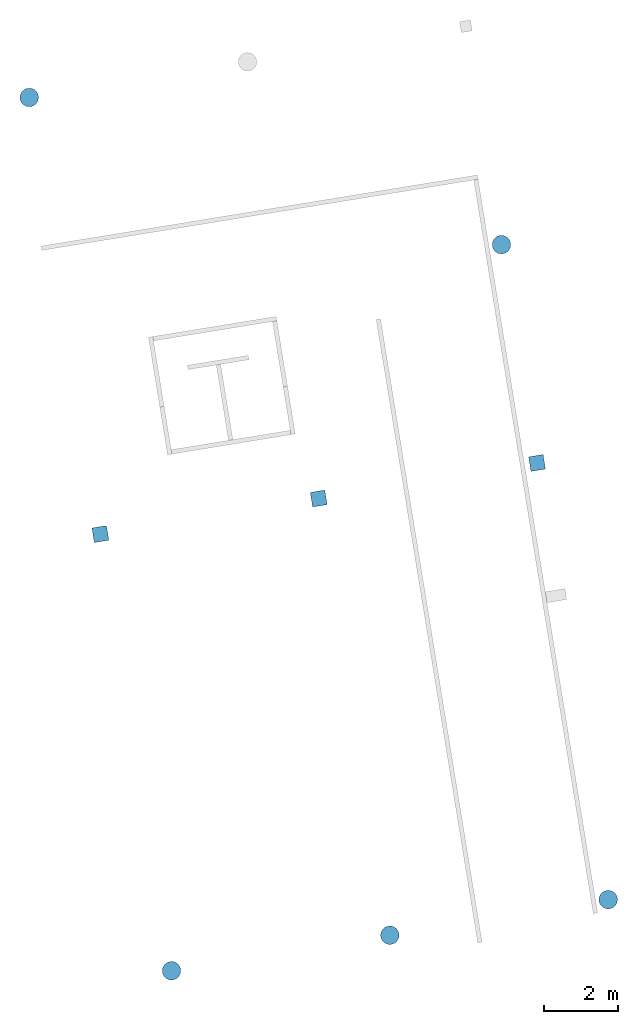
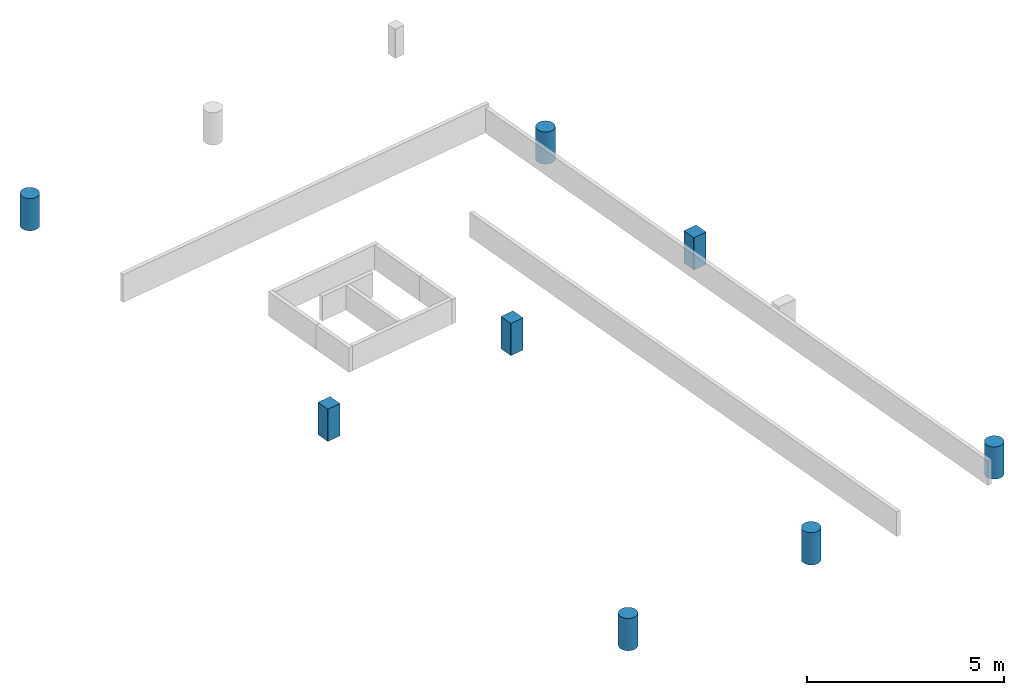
# One storey, part 1 of 2: 8 columns.
"""IFC2X3 building model written with IfcOpenShell, lengths in millimetres."""

from ifc_helpers import new_model, entity, si_unit, converted_unit, derived_unit, direction, frame, origin, origin_with_axes, place, context, subcontext, project, spatial, faceted_brep, material, type_object, element, save


model = new_model("IFC2X3")

# Units and contexts
model_context = context("Model", 3, precision=0.01, world=origin(), true_north=direction((6.12323399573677e-17, 1.0)))
plan_context = context("Plan", 3, precision=1e-05, world=origin_with_axes())
body_context = subcontext(model_context, "Body", "Model", "MODEL_VIEW")
ifc_project = project(units=[converted_unit("PLANEANGLEUNIT", "DEGREE", entity("IfcPositiveLengthMeasure", 0.0174532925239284), si_unit("PLANEANGLEUNIT", "RADIAN"), dimensions=[0, 0, 0, 0, 0, 0, 0]), si_unit("AREAUNIT", "SQUARE_METRE"), si_unit("LENGTHUNIT", "METRE", prefix="MILLI"), si_unit("MASSUNIT", "GRAM", prefix="KILO"), si_unit("POWERUNIT", "WATT"), si_unit("PRESSUREUNIT", "PASCAL", prefix="KILO"), si_unit("FORCEUNIT", "NEWTON", prefix="KILO"), si_unit("ELECTRICVOLTAGEUNIT", "VOLT"), si_unit("ELECTRICCURRENTUNIT", "AMPERE"), si_unit("THERMODYNAMICTEMPERATUREUNIT", "DEGREE_CELSIUS"), si_unit("TIMEUNIT", "SECOND"), si_unit("VOLUMEUNIT", "CUBIC_METRE"), derived_unit("LINEARVELOCITYUNIT", [(si_unit("LENGTHUNIT", "METRE"), 1), (si_unit("TIMEUNIT", "SECOND"), -1)]), derived_unit("VOLUMETRICFLOWRATEUNIT", [(si_unit("VOLUMEUNIT", "CUBIC_METRE"), 1), (si_unit("TIMEUNIT", "SECOND"), -1)]), derived_unit("THERMALTRANSMITTANCEUNIT", [(si_unit("POWERUNIT", "WATT"), 1), (si_unit("THERMODYNAMICTEMPERATUREUNIT", "KELVIN"), -1), (si_unit("AREAUNIT", "SQUARE_METRE"), -1)]), derived_unit("SOUNDPRESSUREUNIT", [(si_unit("PRESSUREUNIT", "PASCAL"), 1)])], contexts=[model_context, plan_context])

# Site, building, storey
site_placement = place(None, frame((-305029.896016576, -232111.759730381, 0.0), z_axis=(0.0, 0.0, 1.0), x_axis=(-0.160806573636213, 0.986985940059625, 0.0)))
site = spatial("IfcSite", under=ifc_project, at=site_placement, Name="Default", CompositionType="ELEMENT")
building_placement = place(site_placement, frame((0.0, 0.0, 0.0), z_axis=(0.0, 0.0, 1.0), x_axis=(1.0, -2.77555756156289e-17, 0.0)))
building = spatial("IfcBuilding", under=site, at=building_placement, Name="br001-a-200-1-0001", CompositionType="ELEMENT")
storey_placement = place(building_placement, frame((0.0, 0.0, 51360.0000000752), z_axis=(0.0, 0.0, 1.0), x_axis=(1.0, -2.77555756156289e-17, 0.0)))
storey = spatial("IfcBuildingStorey", under=building, at=storey_placement, Name="H01-Nivå D+0,36", CompositionType="ELEMENT", Elevation=51360.0000000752)

# Columns
ifc_material = material(Name="_NSW Betong")
column_type_1 = type_object("IfcColumnType", Name="NSW Søyle - Betong rund:ø500 mm", PredefinedType="COLUMN", material=ifc_material)
column_1_placement = place(storey_placement, frame((1196678.59858442, -722766.378367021, -51360.0000000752), z_axis=(0.0, 0.0, 1.0), x_axis=(1.0, -2.77555756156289e-17, 0.0)))
element("IfcColumn", 1, at=column_1_placement, inside=storey, type_object=column_type_1, Name="NSW Søyle - Betong rund:ø500 mm", ObjectType="NSW Søyle - Betong rund:ø500 mm", context=body_context, shape_type="Brep", body=[
    faceted_brep([(249.999999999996, -3.94377568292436e-13, 54500.0), (246.201938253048, -43.4120444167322, 54500.0), (246.201938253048, -43.4120444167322, 55500.0), (249.999999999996, -3.94377568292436e-13, 55500.0), (246.201938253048, 43.4120444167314, 54500.0), (246.201938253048, 43.4120444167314, 55500.0), (234.923155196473, 85.5050358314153, 54500.0), (234.923155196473, 85.5050358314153, 55500.0), (216.506350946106, 124.999999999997, 54500.0), (216.506350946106, 124.999999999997, 55500.0), (191.511110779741, 160.696902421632, 54500.0), (191.511110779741, 160.696902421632, 55500.0), (160.696902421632, 191.511110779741, 54500.0), (160.696902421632, 191.511110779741, 55500.0), (124.999999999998, 216.506350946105, 54500.0), (124.999999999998, 216.506350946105, 55500.0), (85.5050358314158, 234.923155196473, 54500.0), (85.5050358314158, 234.923155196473, 55500.0), (43.4120444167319, 246.201938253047, 54500.0), (43.4120444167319, 246.201938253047, 55500.0), (6.17269247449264e-14, 249.999999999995, 54500.0), (6.17269247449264e-14, 249.999999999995, 55500.0), (-43.4120444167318, 246.201938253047, 54500.0), (-43.4120444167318, 246.201938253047, 55500.0), (-85.5050358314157, 234.923155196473, 54500.0), (-85.5050358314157, 234.923155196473, 55500.0), (-124.999999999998, 216.506350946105, 54500.0), (-124.999999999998, 216.506350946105, 55500.0), (-160.696902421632, 191.511110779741, 54500.0), (-160.696902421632, 191.511110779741, 55500.0), (-191.511110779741, 160.696902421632, 54500.0), (-191.511110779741, 160.696902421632, 55500.0), (-216.506350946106, 124.999999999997, 54500.0), (-216.506350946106, 124.999999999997, 55500.0), (-234.923155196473, 85.5050358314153, 54500.0), (-234.923155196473, 85.5050358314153, 55500.0), (-246.201938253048, 43.4120444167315, 54500.0), (-246.201938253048, 43.4120444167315, 55500.0), (-249.999999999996, -3.63761398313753e-13, 54500.0), (-249.999999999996, -3.63761398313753e-13, 55500.0), (-246.201938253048, -43.4120444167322, 54500.0), (-246.201938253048, -43.4120444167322, 55500.0), (-234.923155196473, -85.5050358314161, 54500.0), (-234.923155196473, -85.5050358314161, 55500.0), (-216.506350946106, -124.999999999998, 54500.0), (-216.506350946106, -124.999999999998, 55500.0), (-191.511110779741, -160.696902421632, 54500.0), (-191.511110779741, -160.696902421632, 55500.0), (-160.696902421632, -191.511110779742, 54500.0), (-160.696902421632, -191.511110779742, 55500.0), (-124.999999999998, -216.506350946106, 54500.0), (-124.999999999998, -216.506350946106, 55500.0), (-85.5050358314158, -234.923155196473, 54500.0), (-85.5050358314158, -234.923155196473, 55500.0), (-43.4120444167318, -246.201938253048, 54500.0), (-43.4120444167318, -246.201938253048, 55500.0), (4.94584787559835e-16, -249.999999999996, 54500.0), (4.94584787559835e-16, -249.999999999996, 55500.0), (43.4120444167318, -246.201938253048, 54500.0), (43.4120444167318, -246.201938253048, 55500.0), (85.5050358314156, -234.923155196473, 54500.0), (85.5050358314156, -234.923155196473, 55500.0), (124.999999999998, -216.506350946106, 54500.0), (124.999999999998, -216.506350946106, 55500.0), (160.696902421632, -191.511110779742, 54500.0), (160.696902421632, -191.511110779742, 55500.0), (191.511110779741, -160.696902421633, 54500.0), (191.511110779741, -160.696902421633, 55500.0), (216.506350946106, -124.999999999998, 54500.0), (216.506350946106, -124.999999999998, 55500.0), (234.923155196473, -85.5050358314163, 54500.0), (234.923155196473, -85.5050358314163, 55500.0)], [[[0, 1, 2, 3]], [[4, 0, 3, 5]], [[6, 4, 5, 7]], [[8, 6, 7, 9]], [[10, 8, 9, 11]], [[12, 10, 11, 13]], [[14, 12, 13, 15]], [[16, 14, 15, 17]], [[18, 16, 17, 19]], [[20, 18, 19, 21]], [[22, 20, 21, 23]], [[24, 22, 23, 25]], [[26, 24, 25, 27]], [[28, 26, 27, 29]], [[30, 28, 29, 31]], [[32, 30, 31, 33]], [[34, 32, 33, 35]], [[36, 34, 35, 37]], [[38, 36, 37, 39]], [[40, 38, 39, 41]], [[42, 40, 41, 43]], [[44, 42, 43, 45]], [[46, 44, 45, 47]], [[48, 46, 47, 49]], [[50, 48, 49, 51]], [[52, 50, 51, 53]], [[54, 52, 53, 55]], [[56, 54, 55, 57]], [[58, 56, 57, 59]], [[60, 58, 59, 61]], [[62, 60, 61, 63]], [[64, 62, 63, 65]], [[66, 64, 65, 67]], [[68, 66, 67, 69]], [[70, 68, 69, 71]], [[1, 70, 71, 2]], [[3, 2, 71, 69, 67, 65, 63, 61, 59, 57, 55, 53, 51, 49, 47, 45, 43, 41, 39, 37, 35, 33, 31, 29, 27, 25, 23, 21, 19, 17, 15, 13, 11, 9, 7, 5]], [[4, 6, 8, 10, 12, 14, 16, 18, 20, 22, 24, 26, 28, 30, 32, 34, 36, 38, 40, 42, 44, 46, 48, 50, 52, 54, 56, 58, 60, 62, 64, 66, 68, 70, 1, 0]]], orient=[[False], [False], [False], [False], [False], [False], [False], [False], [False], [False], [False], [False], [False], [False], [False], [False], [False], [False], [False], [False], [False], [False], [False], [False], [False], [False], [False], [False], [False], [False], [False], [False], [False], [False], [False], [False], [False], [False]]),
])
column_2_placement = place(storey_placement, frame((1190678.59858442, -734766.378367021, -51360.0000000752), z_axis=(0.0, 0.0, 1.0), x_axis=(1.0, -2.77555756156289e-17, 0.0)))
element("IfcColumn", 2, at=column_2_placement, inside=storey, type_object=column_type_1, Name="NSW Søyle - Betong rund:ø500 mm", ObjectType="NSW Søyle - Betong rund:ø500 mm", context=body_context, shape_type="Brep", body=[
    faceted_brep([(249.999999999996, -3.94377568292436e-13, 54500.0), (246.201938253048, -43.4120444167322, 54500.0), (246.201938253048, -43.4120444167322, 55500.0), (249.999999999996, -3.94377568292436e-13, 55500.0), (246.201938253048, 43.4120444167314, 54500.0), (246.201938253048, 43.4120444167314, 55500.0), (234.923155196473, 85.5050358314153, 54500.0), (234.923155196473, 85.5050358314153, 55500.0), (216.506350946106, 124.999999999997, 54500.0), (216.506350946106, 124.999999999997, 55500.0), (191.511110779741, 160.696902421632, 54500.0), (191.511110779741, 160.696902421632, 55500.0), (160.696902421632, 191.511110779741, 54500.0), (160.696902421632, 191.511110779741, 55500.0), (124.999999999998, 216.506350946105, 54500.0), (124.999999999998, 216.506350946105, 55500.0), (85.5050358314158, 234.923155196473, 54500.0), (85.5050358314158, 234.923155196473, 55500.0), (43.4120444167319, 246.201938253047, 54500.0), (43.4120444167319, 246.201938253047, 55500.0), (6.17269247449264e-14, 249.999999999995, 54500.0), (6.17269247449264e-14, 249.999999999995, 55500.0), (-43.4120444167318, 246.201938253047, 54500.0), (-43.4120444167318, 246.201938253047, 55500.0), (-85.5050358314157, 234.923155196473, 54500.0), (-85.5050358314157, 234.923155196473, 55500.0), (-124.999999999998, 216.506350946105, 54500.0), (-124.999999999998, 216.506350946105, 55500.0), (-160.696902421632, 191.511110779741, 54500.0), (-160.696902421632, 191.511110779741, 55500.0), (-191.511110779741, 160.696902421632, 54500.0), (-191.511110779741, 160.696902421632, 55500.0), (-216.506350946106, 124.999999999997, 54500.0), (-216.506350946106, 124.999999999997, 55500.0), (-234.923155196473, 85.5050358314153, 54500.0), (-234.923155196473, 85.5050358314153, 55500.0), (-246.201938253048, 43.4120444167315, 54500.0), (-246.201938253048, 43.4120444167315, 55500.0), (-249.999999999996, -3.63761398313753e-13, 54500.0), (-249.999999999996, -3.63761398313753e-13, 55500.0), (-246.201938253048, -43.4120444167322, 54500.0), (-246.201938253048, -43.4120444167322, 55500.0), (-234.923155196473, -85.5050358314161, 54500.0), (-234.923155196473, -85.5050358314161, 55500.0), (-216.506350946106, -124.999999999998, 54500.0), (-216.506350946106, -124.999999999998, 55500.0), (-191.511110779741, -160.696902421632, 54500.0), (-191.511110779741, -160.696902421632, 55500.0), (-160.696902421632, -191.511110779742, 54500.0), (-160.696902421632, -191.511110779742, 55500.0), (-124.999999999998, -216.506350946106, 54500.0), (-124.999999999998, -216.506350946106, 55500.0), (-85.5050358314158, -234.923155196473, 54500.0), (-85.5050358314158, -234.923155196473, 55500.0), (-43.4120444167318, -246.201938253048, 54500.0), (-43.4120444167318, -246.201938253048, 55500.0), (4.94584787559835e-16, -249.999999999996, 54500.0), (4.94584787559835e-16, -249.999999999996, 55500.0), (43.4120444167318, -246.201938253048, 54500.0), (43.4120444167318, -246.201938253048, 55500.0), (85.5050358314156, -234.923155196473, 54500.0), (85.5050358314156, -234.923155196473, 55500.0), (124.999999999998, -216.506350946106, 54500.0), (124.999999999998, -216.506350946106, 55500.0), (160.696902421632, -191.511110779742, 54500.0), (160.696902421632, -191.511110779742, 55500.0), (191.511110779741, -160.696902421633, 54500.0), (191.511110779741, -160.696902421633, 55500.0), (216.506350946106, -124.999999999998, 54500.0), (216.506350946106, -124.999999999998, 55500.0), (234.923155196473, -85.5050358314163, 54500.0), (234.923155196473, -85.5050358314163, 55500.0)], [[[0, 1, 2, 3]], [[4, 0, 3, 5]], [[6, 4, 5, 7]], [[8, 6, 7, 9]], [[10, 8, 9, 11]], [[12, 10, 11, 13]], [[14, 12, 13, 15]], [[16, 14, 15, 17]], [[18, 16, 17, 19]], [[20, 18, 19, 21]], [[22, 20, 21, 23]], [[24, 22, 23, 25]], [[26, 24, 25, 27]], [[28, 26, 27, 29]], [[30, 28, 29, 31]], [[32, 30, 31, 33]], [[34, 32, 33, 35]], [[36, 34, 35, 37]], [[38, 36, 37, 39]], [[40, 38, 39, 41]], [[42, 40, 41, 43]], [[44, 42, 43, 45]], [[46, 44, 45, 47]], [[48, 46, 47, 49]], [[50, 48, 49, 51]], [[52, 50, 51, 53]], [[54, 52, 53, 55]], [[56, 54, 55, 57]], [[58, 56, 57, 59]], [[60, 58, 59, 61]], [[62, 60, 61, 63]], [[64, 62, 63, 65]], [[66, 64, 65, 67]], [[68, 66, 67, 69]], [[70, 68, 69, 71]], [[1, 70, 71, 2]], [[3, 2, 71, 69, 67, 65, 63, 61, 59, 57, 55, 53, 51, 49, 47, 45, 43, 41, 39, 37, 35, 33, 31, 29, 27, 25, 23, 21, 19, 17, 15, 13, 11, 9, 7, 5]], [[4, 6, 8, 10, 12, 14, 16, 18, 20, 22, 24, 26, 28, 30, 32, 34, 36, 38, 40, 42, 44, 46, 48, 50, 52, 54, 56, 58, 60, 62, 64, 66, 68, 70, 1, 0]]], orient=[[False], [False], [False], [False], [False], [False], [False], [False], [False], [False], [False], [False], [False], [False], [False], [False], [False], [False], [False], [False], [False], [False], [False], [False], [False], [False], [False], [False], [False], [False], [False], [False], [False], [False], [False], [False], [False], [False]]),
])
column_3_placement = place(storey_placement, frame((1172678.59858442, -722766.378367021, -51360.0000000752), z_axis=(0.0, 0.0, 1.0), x_axis=(1.0, -2.77555756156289e-17, 0.0)))
element("IfcColumn", 3, at=column_3_placement, inside=storey, type_object=column_type_1, Name="NSW Søyle - Betong rund:ø500 mm", ObjectType="NSW Søyle - Betong rund:ø500 mm", context=body_context, shape_type="Brep", body=[
    faceted_brep([(249.999999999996, -3.94377568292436e-13, 54500.0), (246.201938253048, -43.4120444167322, 54500.0), (246.201938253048, -43.4120444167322, 55500.0), (249.999999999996, -3.94377568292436e-13, 55500.0), (246.201938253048, 43.4120444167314, 54500.0), (246.201938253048, 43.4120444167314, 55500.0), (234.923155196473, 85.5050358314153, 54500.0), (234.923155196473, 85.5050358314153, 55500.0), (216.506350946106, 124.999999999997, 54500.0), (216.506350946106, 124.999999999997, 55500.0), (191.511110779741, 160.696902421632, 54500.0), (191.511110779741, 160.696902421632, 55500.0), (160.696902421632, 191.511110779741, 54500.0), (160.696902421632, 191.511110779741, 55500.0), (124.999999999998, 216.506350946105, 54500.0), (124.999999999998, 216.506350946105, 55500.0), (85.5050358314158, 234.923155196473, 54500.0), (85.5050358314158, 234.923155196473, 55500.0), (43.4120444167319, 246.201938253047, 54500.0), (43.4120444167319, 246.201938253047, 55500.0), (6.17269247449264e-14, 249.999999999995, 54500.0), (6.17269247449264e-14, 249.999999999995, 55500.0), (-43.4120444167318, 246.201938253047, 54500.0), (-43.4120444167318, 246.201938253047, 55500.0), (-85.5050358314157, 234.923155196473, 54500.0), (-85.5050358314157, 234.923155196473, 55500.0), (-124.999999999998, 216.506350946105, 54500.0), (-124.999999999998, 216.506350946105, 55500.0), (-160.696902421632, 191.511110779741, 54500.0), (-160.696902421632, 191.511110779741, 55500.0), (-191.511110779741, 160.696902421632, 54500.0), (-191.511110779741, 160.696902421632, 55500.0), (-216.506350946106, 124.999999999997, 54500.0), (-216.506350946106, 124.999999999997, 55500.0), (-234.923155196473, 85.5050358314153, 54500.0), (-234.923155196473, 85.5050358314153, 55500.0), (-246.201938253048, 43.4120444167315, 54500.0), (-246.201938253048, 43.4120444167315, 55500.0), (-249.999999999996, -3.63761398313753e-13, 54500.0), (-249.999999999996, -3.63761398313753e-13, 55500.0), (-246.201938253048, -43.4120444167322, 54500.0), (-246.201938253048, -43.4120444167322, 55500.0), (-234.923155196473, -85.5050358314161, 54500.0), (-234.923155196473, -85.5050358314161, 55500.0), (-216.506350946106, -124.999999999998, 54500.0), (-216.506350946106, -124.999999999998, 55500.0), (-191.511110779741, -160.696902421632, 54500.0), (-191.511110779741, -160.696902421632, 55500.0), (-160.696902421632, -191.511110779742, 54500.0), (-160.696902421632, -191.511110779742, 55500.0), (-124.999999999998, -216.506350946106, 54500.0), (-124.999999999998, -216.506350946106, 55500.0), (-85.5050358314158, -234.923155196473, 54500.0), (-85.5050358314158, -234.923155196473, 55500.0), (-43.4120444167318, -246.201938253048, 54500.0), (-43.4120444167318, -246.201938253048, 55500.0), (4.94584787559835e-16, -249.999999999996, 54500.0), (4.94584787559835e-16, -249.999999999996, 55500.0), (43.4120444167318, -246.201938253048, 54500.0), (43.4120444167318, -246.201938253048, 55500.0), (85.5050358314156, -234.923155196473, 54500.0), (85.5050358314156, -234.923155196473, 55500.0), (124.999999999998, -216.506350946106, 54500.0), (124.999999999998, -216.506350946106, 55500.0), (160.696902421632, -191.511110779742, 54500.0), (160.696902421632, -191.511110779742, 55500.0), (191.511110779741, -160.696902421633, 54500.0), (191.511110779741, -160.696902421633, 55500.0), (216.506350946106, -124.999999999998, 54500.0), (216.506350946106, -124.999999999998, 55500.0), (234.923155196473, -85.5050358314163, 54500.0), (234.923155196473, -85.5050358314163, 55500.0)], [[[0, 1, 2, 3]], [[4, 0, 3, 5]], [[6, 4, 5, 7]], [[8, 6, 7, 9]], [[10, 8, 9, 11]], [[12, 10, 11, 13]], [[14, 12, 13, 15]], [[16, 14, 15, 17]], [[18, 16, 17, 19]], [[20, 18, 19, 21]], [[22, 20, 21, 23]], [[24, 22, 23, 25]], [[26, 24, 25, 27]], [[28, 26, 27, 29]], [[30, 28, 29, 31]], [[32, 30, 31, 33]], [[34, 32, 33, 35]], [[36, 34, 35, 37]], [[38, 36, 37, 39]], [[40, 38, 39, 41]], [[42, 40, 41, 43]], [[44, 42, 43, 45]], [[46, 44, 45, 47]], [[48, 46, 47, 49]], [[50, 48, 49, 51]], [[52, 50, 51, 53]], [[54, 52, 53, 55]], [[56, 54, 55, 57]], [[58, 56, 57, 59]], [[60, 58, 59, 61]], [[62, 60, 61, 63]], [[64, 62, 63, 65]], [[66, 64, 65, 67]], [[68, 66, 67, 69]], [[70, 68, 69, 71]], [[1, 70, 71, 2]], [[3, 2, 71, 69, 67, 65, 63, 61, 59, 57, 55, 53, 51, 49, 47, 45, 43, 41, 39, 37, 35, 33, 31, 29, 27, 25, 23, 21, 19, 17, 15, 13, 11, 9, 7, 5]], [[4, 6, 8, 10, 12, 14, 16, 18, 20, 22, 24, 26, 28, 30, 32, 34, 36, 38, 40, 42, 44, 46, 48, 50, 52, 54, 56, 58, 60, 62, 64, 66, 68, 70, 1, 0]]], orient=[[False], [False], [False], [False], [False], [False], [False], [False], [False], [False], [False], [False], [False], [False], [False], [False], [False], [False], [False], [False], [False], [False], [False], [False], [False], [False], [False], [False], [False], [False], [False], [False], [False], [False], [False], [False], [False], [False]]),
])
column_4_placement = place(storey_placement, frame((1172678.59858442, -728766.37836702, -51360.0000000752), z_axis=(0.0, 0.0, 1.0), x_axis=(1.0, -2.77555756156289e-17, 0.0)))
element("IfcColumn", 4, at=column_4_placement, inside=storey, type_object=column_type_1, Name="NSW Søyle - Betong rund:ø500 mm", ObjectType="NSW Søyle - Betong rund:ø500 mm", context=body_context, shape_type="Brep", body=[
    faceted_brep([(249.999999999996, -3.94377568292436e-13, 54500.0), (246.201938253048, -43.4120444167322, 54500.0), (246.201938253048, -43.4120444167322, 55500.0), (249.999999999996, -3.94377568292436e-13, 55500.0), (246.201938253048, 43.4120444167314, 54500.0), (246.201938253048, 43.4120444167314, 55500.0), (234.923155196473, 85.5050358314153, 54500.0), (234.923155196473, 85.5050358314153, 55500.0), (216.506350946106, 124.999999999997, 54500.0), (216.506350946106, 124.999999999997, 55500.0), (191.511110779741, 160.696902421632, 54500.0), (191.511110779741, 160.696902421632, 55500.0), (160.696902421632, 191.511110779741, 54500.0), (160.696902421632, 191.511110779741, 55500.0), (124.999999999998, 216.506350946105, 54500.0), (124.999999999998, 216.506350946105, 55500.0), (85.5050358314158, 234.923155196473, 54500.0), (85.5050358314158, 234.923155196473, 55500.0), (43.4120444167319, 246.201938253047, 54500.0), (43.4120444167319, 246.201938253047, 55500.0), (6.17269247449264e-14, 249.999999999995, 54500.0), (6.17269247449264e-14, 249.999999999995, 55500.0), (-43.4120444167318, 246.201938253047, 54500.0), (-43.4120444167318, 246.201938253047, 55500.0), (-85.5050358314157, 234.923155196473, 54500.0), (-85.5050358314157, 234.923155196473, 55500.0), (-124.999999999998, 216.506350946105, 54500.0), (-124.999999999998, 216.506350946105, 55500.0), (-160.696902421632, 191.511110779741, 54500.0), (-160.696902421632, 191.511110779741, 55500.0), (-191.511110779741, 160.696902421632, 54500.0), (-191.511110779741, 160.696902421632, 55500.0), (-216.506350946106, 124.999999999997, 54500.0), (-216.506350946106, 124.999999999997, 55500.0), (-234.923155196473, 85.5050358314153, 54500.0), (-234.923155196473, 85.5050358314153, 55500.0), (-246.201938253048, 43.4120444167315, 54500.0), (-246.201938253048, 43.4120444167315, 55500.0), (-249.999999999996, -3.63761398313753e-13, 54500.0), (-249.999999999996, -3.63761398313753e-13, 55500.0), (-246.201938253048, -43.4120444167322, 54500.0), (-246.201938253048, -43.4120444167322, 55500.0), (-234.923155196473, -85.5050358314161, 54500.0), (-234.923155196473, -85.5050358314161, 55500.0), (-216.506350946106, -124.999999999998, 54500.0), (-216.506350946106, -124.999999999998, 55500.0), (-191.511110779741, -160.696902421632, 54500.0), (-191.511110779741, -160.696902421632, 55500.0), (-160.696902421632, -191.511110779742, 54500.0), (-160.696902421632, -191.511110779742, 55500.0), (-124.999999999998, -216.506350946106, 54500.0), (-124.999999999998, -216.506350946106, 55500.0), (-85.5050358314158, -234.923155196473, 54500.0), (-85.5050358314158, -234.923155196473, 55500.0), (-43.4120444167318, -246.201938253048, 54500.0), (-43.4120444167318, -246.201938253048, 55500.0), (4.94584787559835e-16, -249.999999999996, 54500.0), (4.94584787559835e-16, -249.999999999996, 55500.0), (43.4120444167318, -246.201938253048, 54500.0), (43.4120444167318, -246.201938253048, 55500.0), (85.5050358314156, -234.923155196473, 54500.0), (85.5050358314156, -234.923155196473, 55500.0), (124.999999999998, -216.506350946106, 54500.0), (124.999999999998, -216.506350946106, 55500.0), (160.696902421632, -191.511110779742, 54500.0), (160.696902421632, -191.511110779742, 55500.0), (191.511110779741, -160.696902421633, 54500.0), (191.511110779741, -160.696902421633, 55500.0), (216.506350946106, -124.999999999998, 54500.0), (216.506350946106, -124.999999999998, 55500.0), (234.923155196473, -85.5050358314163, 54500.0), (234.923155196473, -85.5050358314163, 55500.0)], [[[0, 1, 2, 3]], [[4, 0, 3, 5]], [[6, 4, 5, 7]], [[8, 6, 7, 9]], [[10, 8, 9, 11]], [[12, 10, 11, 13]], [[14, 12, 13, 15]], [[16, 14, 15, 17]], [[18, 16, 17, 19]], [[20, 18, 19, 21]], [[22, 20, 21, 23]], [[24, 22, 23, 25]], [[26, 24, 25, 27]], [[28, 26, 27, 29]], [[30, 28, 29, 31]], [[32, 30, 31, 33]], [[34, 32, 33, 35]], [[36, 34, 35, 37]], [[38, 36, 37, 39]], [[40, 38, 39, 41]], [[42, 40, 41, 43]], [[44, 42, 43, 45]], [[46, 44, 45, 47]], [[48, 46, 47, 49]], [[50, 48, 49, 51]], [[52, 50, 51, 53]], [[54, 52, 53, 55]], [[56, 54, 55, 57]], [[58, 56, 57, 59]], [[60, 58, 59, 61]], [[62, 60, 61, 63]], [[64, 62, 63, 65]], [[66, 64, 65, 67]], [[68, 66, 67, 69]], [[70, 68, 69, 71]], [[1, 70, 71, 2]], [[3, 2, 71, 69, 67, 65, 63, 61, 59, 57, 55, 53, 51, 49, 47, 45, 43, 41, 39, 37, 35, 33, 31, 29, 27, 25, 23, 21, 19, 17, 15, 13, 11, 9, 7, 5]], [[4, 6, 8, 10, 12, 14, 16, 18, 20, 22, 24, 26, 28, 30, 32, 34, 36, 38, 40, 42, 44, 46, 48, 50, 52, 54, 56, 58, 60, 62, 64, 66, 68, 70, 1, 0]]], orient=[[False], [False], [False], [False], [False], [False], [False], [False], [False], [False], [False], [False], [False], [False], [False], [False], [False], [False], [False], [False], [False], [False], [False], [False], [False], [False], [False], [False], [False], [False], [False], [False], [False], [False], [False], [False], [False], [False]]),
])
column_5_placement = place(storey_placement, frame((1172678.59858442, -734766.378367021, -51360.0000000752), z_axis=(0.0, 0.0, 1.0), x_axis=(1.0, -2.77555756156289e-17, 0.0)))
element("IfcColumn", 5, at=column_5_placement, inside=storey, type_object=column_type_1, Name="NSW Søyle - Betong rund:ø500 mm", ObjectType="NSW Søyle - Betong rund:ø500 mm", context=body_context, shape_type="Brep", body=[
    faceted_brep([(249.999999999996, -3.94377568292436e-13, 54500.0), (246.201938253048, -43.4120444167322, 54500.0), (246.201938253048, -43.4120444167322, 55500.0), (249.999999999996, -3.94377568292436e-13, 55500.0), (246.201938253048, 43.4120444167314, 54500.0), (246.201938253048, 43.4120444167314, 55500.0), (234.923155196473, 85.5050358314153, 54500.0), (234.923155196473, 85.5050358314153, 55500.0), (216.506350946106, 124.999999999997, 54500.0), (216.506350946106, 124.999999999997, 55500.0), (191.511110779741, 160.696902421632, 54500.0), (191.511110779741, 160.696902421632, 55500.0), (160.696902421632, 191.511110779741, 54500.0), (160.696902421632, 191.511110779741, 55500.0), (124.999999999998, 216.506350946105, 54500.0), (124.999999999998, 216.506350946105, 55500.0), (85.5050358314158, 234.923155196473, 54500.0), (85.5050358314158, 234.923155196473, 55500.0), (43.4120444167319, 246.201938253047, 54500.0), (43.4120444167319, 246.201938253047, 55500.0), (6.17269247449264e-14, 249.999999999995, 54500.0), (6.17269247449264e-14, 249.999999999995, 55500.0), (-43.4120444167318, 246.201938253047, 54500.0), (-43.4120444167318, 246.201938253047, 55500.0), (-85.5050358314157, 234.923155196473, 54500.0), (-85.5050358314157, 234.923155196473, 55500.0), (-124.999999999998, 216.506350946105, 54500.0), (-124.999999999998, 216.506350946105, 55500.0), (-160.696902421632, 191.511110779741, 54500.0), (-160.696902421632, 191.511110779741, 55500.0), (-191.511110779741, 160.696902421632, 54500.0), (-191.511110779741, 160.696902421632, 55500.0), (-216.506350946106, 124.999999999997, 54500.0), (-216.506350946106, 124.999999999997, 55500.0), (-234.923155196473, 85.5050358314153, 54500.0), (-234.923155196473, 85.5050358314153, 55500.0), (-246.201938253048, 43.4120444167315, 54500.0), (-246.201938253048, 43.4120444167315, 55500.0), (-249.999999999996, -3.63761398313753e-13, 54500.0), (-249.999999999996, -3.63761398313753e-13, 55500.0), (-246.201938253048, -43.4120444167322, 54500.0), (-246.201938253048, -43.4120444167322, 55500.0), (-234.923155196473, -85.5050358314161, 54500.0), (-234.923155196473, -85.5050358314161, 55500.0), (-216.506350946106, -124.999999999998, 54500.0), (-216.506350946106, -124.999999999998, 55500.0), (-191.511110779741, -160.696902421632, 54500.0), (-191.511110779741, -160.696902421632, 55500.0), (-160.696902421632, -191.511110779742, 54500.0), (-160.696902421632, -191.511110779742, 55500.0), (-124.999999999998, -216.506350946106, 54500.0), (-124.999999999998, -216.506350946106, 55500.0), (-85.5050358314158, -234.923155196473, 54500.0), (-85.5050358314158, -234.923155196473, 55500.0), (-43.4120444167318, -246.201938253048, 54500.0), (-43.4120444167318, -246.201938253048, 55500.0), (4.94584787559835e-16, -249.999999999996, 54500.0), (4.94584787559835e-16, -249.999999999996, 55500.0), (43.4120444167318, -246.201938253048, 54500.0), (43.4120444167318, -246.201938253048, 55500.0), (85.5050358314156, -234.923155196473, 54500.0), (85.5050358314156, -234.923155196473, 55500.0), (124.999999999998, -216.506350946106, 54500.0), (124.999999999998, -216.506350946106, 55500.0), (160.696902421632, -191.511110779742, 54500.0), (160.696902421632, -191.511110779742, 55500.0), (191.511110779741, -160.696902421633, 54500.0), (191.511110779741, -160.696902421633, 55500.0), (216.506350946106, -124.999999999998, 54500.0), (216.506350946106, -124.999999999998, 55500.0), (234.923155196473, -85.5050358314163, 54500.0), (234.923155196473, -85.5050358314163, 55500.0)], [[[0, 1, 2, 3]], [[4, 0, 3, 5]], [[6, 4, 5, 7]], [[8, 6, 7, 9]], [[10, 8, 9, 11]], [[12, 10, 11, 13]], [[14, 12, 13, 15]], [[16, 14, 15, 17]], [[18, 16, 17, 19]], [[20, 18, 19, 21]], [[22, 20, 21, 23]], [[24, 22, 23, 25]], [[26, 24, 25, 27]], [[28, 26, 27, 29]], [[30, 28, 29, 31]], [[32, 30, 31, 33]], [[34, 32, 33, 35]], [[36, 34, 35, 37]], [[38, 36, 37, 39]], [[40, 38, 39, 41]], [[42, 40, 41, 43]], [[44, 42, 43, 45]], [[46, 44, 45, 47]], [[48, 46, 47, 49]], [[50, 48, 49, 51]], [[52, 50, 51, 53]], [[54, 52, 53, 55]], [[56, 54, 55, 57]], [[58, 56, 57, 59]], [[60, 58, 59, 61]], [[62, 60, 61, 63]], [[64, 62, 63, 65]], [[66, 64, 65, 67]], [[68, 66, 67, 69]], [[70, 68, 69, 71]], [[1, 70, 71, 2]], [[3, 2, 71, 69, 67, 65, 63, 61, 59, 57, 55, 53, 51, 49, 47, 45, 43, 41, 39, 37, 35, 33, 31, 29, 27, 25, 23, 21, 19, 17, 15, 13, 11, 9, 7, 5]], [[4, 6, 8, 10, 12, 14, 16, 18, 20, 22, 24, 26, 28, 30, 32, 34, 36, 38, 40, 42, 44, 46, 48, 50, 52, 54, 56, 58, 60, 62, 64, 66, 68, 70, 1, 0]]], orient=[[False], [False], [False], [False], [False], [False], [False], [False], [False], [False], [False], [False], [False], [False], [False], [False], [False], [False], [False], [False], [False], [False], [False], [False], [False], [False], [False], [False], [False], [False], [False], [False], [False], [False], [False], [False], [False], [False]]),
])
column_type_2 = type_object("IfcColumnType", Name="NSW Søyle - Betong rektangulær:400 x 400 mm", PredefinedType="COLUMN", material=ifc_material)
for number, where, z_axis, x_axis, name in (
    (6, (1184578.59858442, -722666.378367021, -51360.0000000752), (0.0, 0.0, 1.0), (1.0, -2.77555756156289e-17, 0.0), "NSW Søyle - Betong rektangulær:400 x 400 mm"),
    (7, (1184578.59858442, -728666.378367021, -51360.0000000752), (0.0, 0.0, 1.0), (1.0, -2.77555756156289e-17, 0.0), "NSW Søyle - Betong rektangulær:400 x 400 mm"),
    (8, (1184578.59858442, -734666.378367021, -51360.0000000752), (0.0, 0.0, 1.0), (1.0, -2.77555756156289e-17, 0.0), "NSW Søyle - Betong rektangulær:400 x 400 mm"),
):
    element("IfcColumn", number, at=place(storey_placement, frame(where, z_axis=z_axis, x_axis=x_axis)), inside=storey, type_object=column_type_2, Name=name, ObjectType="NSW Søyle - Betong rektangulær:400 x 400 mm", context=body_context, shape_type="Brep", body=[
        faceted_brep([(290.000000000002, -300.0, 54500.0), (-89.9999999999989, -300.0, 54500.0), (-89.9999999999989, -300.0, 55500.0), (290.000000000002, -300.0, 55500.0), (300.0, -290.0, 54500.0), (300.0, -290.0, 55500.0), (300.0, 90.0000000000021, 54500.0), (300.0, 90.0000000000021, 55500.0), (290.0, 100.0, 54500.0), (290.0, 100.0, 55500.0), (-90.0000000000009, 100.0, 54500.0), (-90.0000000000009, 100.0, 55500.0), (-100.000000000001, 89.9999999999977, 54500.0), (-100.000000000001, 89.9999999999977, 55500.0), (-100.000000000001, -290.0, 54500.0), (-100.000000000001, -290.0, 55500.0)], [[[0, 1, 2, 3]], [[4, 0, 3, 5]], [[6, 4, 5, 7]], [[8, 6, 7, 9]], [[10, 8, 9, 11]], [[12, 10, 11, 13]], [[14, 12, 13, 15]], [[1, 14, 15, 2]], [[3, 2, 15, 13, 11, 9, 7, 5]], [[4, 6, 8, 10, 12, 14, 1, 0]]], orient=[[False], [False], [False], [False], [False], [False], [False], [False], [False], [False]]),
    ])

save(model, "model.ifc")
